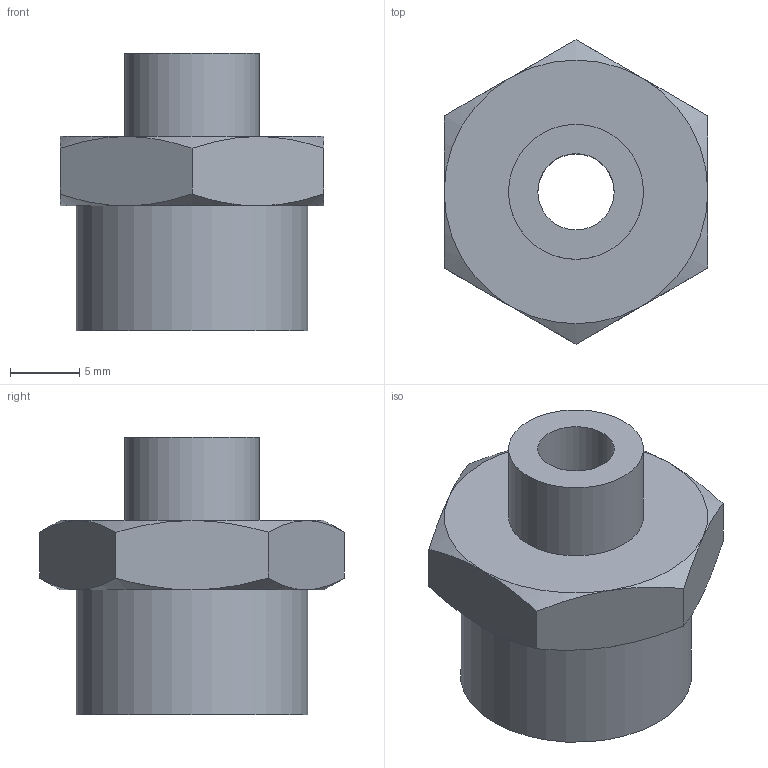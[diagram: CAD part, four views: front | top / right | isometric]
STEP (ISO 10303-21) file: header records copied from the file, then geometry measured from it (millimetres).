
FILE_DESCRIPTION(/* description */ (''),/* implementation_level */ '2;1');
FILE_NAME(/* name */ 'C:\PNX_VAULTFOLDER\Area Tecnica\Disegni\VARIE-3D\Componenti\raccordi\101####\1011838.stp',/* time_stamp */ '2019-09-13T10:22:54+02:00',/* author */ ('maniean1'),/* organization */ ('Pneumax S.p.A.'),/* preprocessor_version */ 'ST-DEVELOPER v17',/* originating_system */ 'Autodesk Inventor 2019',/* authorisation */ '');
FILE_SCHEMA (('AUTOMOTIVE_DESIGN { 1 0 10303 214 3 1 1 }'));
Length unit declared in the file: millimetre
Products named in the file (1): 1011838
Bounding box: 19 x 21.94 x 20 mm (x, y, z)
Volume: 3481.5 mm3; surface area: 1877.6 mm2
Topology: 1 solids, 1 shells, 25 faces, 56 edges, 35 vertices
Faces by surface type: cone 12, plane 10, cylinder 3
Full cylindrical faces by diameter (mm): 5.5 x1, 9.728 x1, 16.662 x1
Entity records: 741 total; most frequent: CARTESIAN_POINT 165, ORIENTED_EDGE 112, DIRECTION 107, EDGE_CURVE 56, AXIS2_PLACEMENT_3D 49, VERTEX_POINT 35, EDGE_LOOP 29, STYLED_ITEM 26
